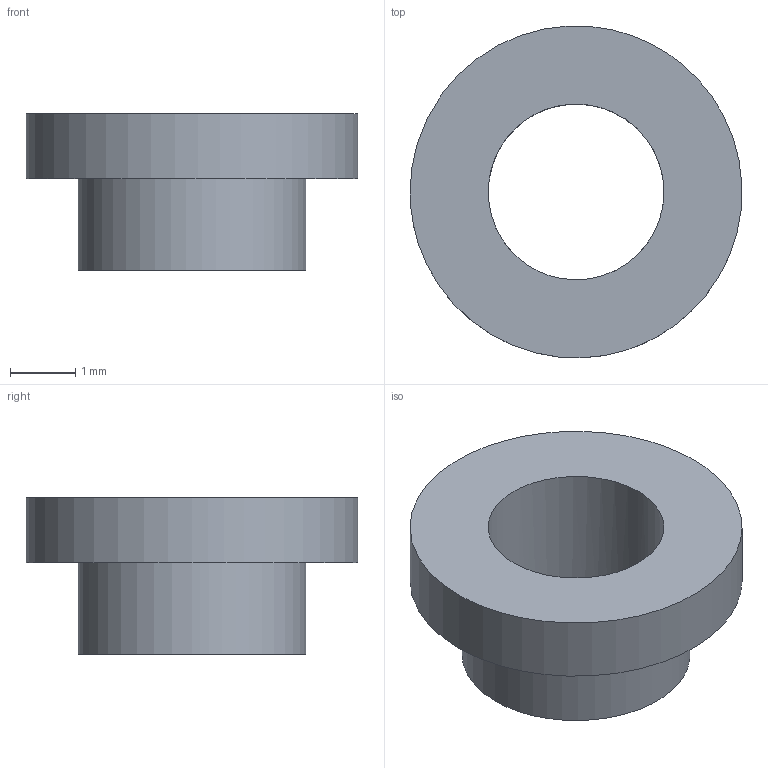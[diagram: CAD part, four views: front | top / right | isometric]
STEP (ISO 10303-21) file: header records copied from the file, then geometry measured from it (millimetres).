
FILE_DESCRIPTION(('FreeCAD Model'),'2;1');
FILE_NAME('Open CASCADE Shape Model','2026-03-20T17:23:01',('Author'),( ''),'Open CASCADE STEP processor 7.8','FreeCAD','Unknown');
FILE_SCHEMA(('AP242_MANAGED_MODEL_BASED_3D_ENGINEERING_MIM_LF. {1 0 10303 442 1 1 4 }'));
Length unit declared in the file: millimetre
Products named in the file (1): 1_transformed
Bounding box: 5.1 x 5.1 x 2.4 mm (x, y, z)
Volume: 20.3 mm3; surface area: 81.3 mm2
Topology: 1 solids, 1 shells, 6 faces, 10 edges, 7 vertices
Faces by surface type: bspline 6
Entity records: 209 total; most frequent: CARTESIAN_POINT 113, ORIENTED_EDGE 20, EDGE_CURVE 10, FACE_BOUND 9, EDGE_LOOP 9, VERTEX_POINT 7, ADVANCED_FACE 6, B_SPLINE_SURFACE_WITH_KNOTS 3
